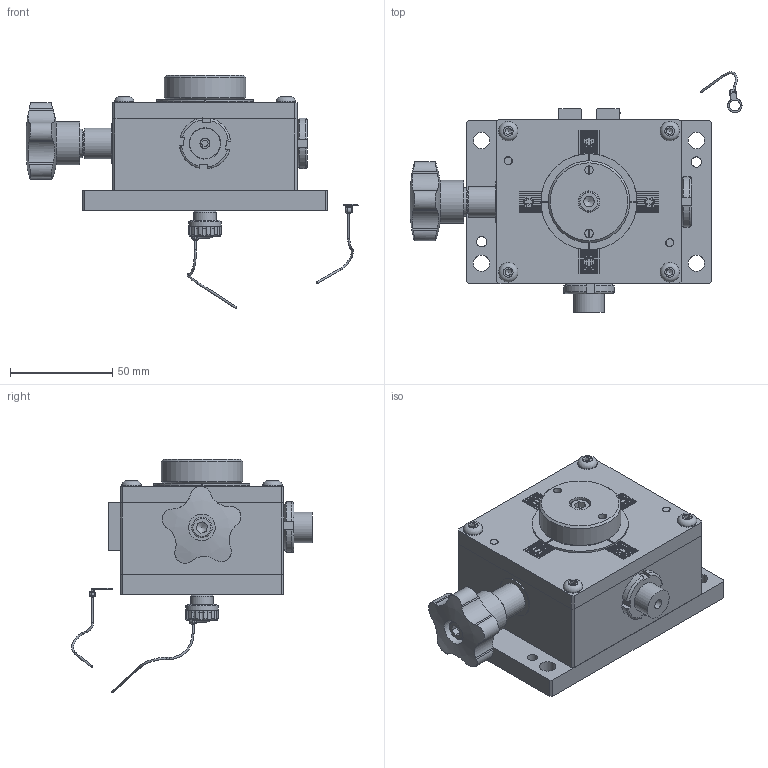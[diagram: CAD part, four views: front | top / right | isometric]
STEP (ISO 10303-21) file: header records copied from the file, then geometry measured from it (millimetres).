
FILE_DESCRIPTION(/* description */ (''),/* implementation_level */ '2;1');
FILE_NAME(/* name */ 'C:\Local Work Area\Progetti\AP\CALIBRI\146.00 Posizionatore\146.00\146.00-SX-L-Y.stp',/* time_stamp */ '2020-02-20T14:55:39+01:00',/* author */ ('CAD5'),/* organization */ (''),/* preprocessor_version */ 'ST-DEVELOPER v17.2',/* originating_system */ 'Autodesk Inventor 2019',/* authorisation */ '');
FILE_SCHEMA (('AUTOMOTIVE_DESIGN { 1 0 10303 214 3 1 1 }'));
Length unit declared in the file: millimetre
Products named in the file (34): 146.00-SX-L-Y; 146.03; 146.01; 146.07; 146.08; 146.02; 146.00_002 Ass manopola-02; 146.00_002 Ass manopola-01; 146.09; UNI 5931 - M 6 x  30; Manopola mecanoplastica 12010250; 146.10; UNI 5933 - M4 x 20; UNI 5923 - M6 x 1 x 8; B12.5 UNI8773; GHIERA M15x1 KM2; UNI 5931 - M5 x 0,8 x 16; ISO 2338 - 5 m6 x 20 - A; Copia di ISO 7380 - M5 x 16; 146.06; UNI 5927 - M5 x 6; 146.00_001 Attrezzatura; 146.04; 146.05; UNI 5931 - M 6 x  20; 146.00 Ass spina; ISO 8735 - 8 x 35 - A; VOLANTINO ZIGRINATO - 130 10 100; catenella; catenella-1; catenella-2; UNI ISO 7380 - M5 x 20; TAPPO_001; ISO 8734 - Ø4 x 16 - A (AP)
Assembly tree (47 placements, depth 4):
  146.00-SX-L-Y
    146.03
    146.01
    146.07
    146.08
    146.02
    146.00_002 Ass manopola-02
      146.09
      146.10
      UNI 5933 - M4 x 20
      UNI 5923 - M6 x 1 x 8
    146.00_002 Ass manopola-01
      146.09
      UNI 5931 - M 6 x  30
      Manopola mecanoplastica 12010250
      146.10
      UNI 5933 - M4 x 20
      UNI 5923 - M6 x 1 x 8
      B12.5 UNI8773  x2
    GHIERA M15x1 KM2  x2
    UNI 5931 - M5 x 0,8 x 16  x4
    ISO 2338 - 5 m6 x 20 - A  x2
    Copia di ISO 7380 - M5 x 16  x4
    146.06
    UNI 5927 - M5 x 6
    146.00_001 Attrezzatura
      146.04
      146.05
      UNI 5931 - M 6 x  20
    146.00 Ass spina
      ISO 8735 - 8 x 35 - A
      VOLANTINO ZIGRINATO - 130 10 100
      catenella
        catenella-1
        catenella-2
      UNI ISO 7380 - M5 x 20
    TAPPO_001
    ISO 8734 - Ø4 x 16 - A (AP)  x2
Bounding box: 162.33 x 117.71 x 114.1 mm (x, y, z)
Volume: 392684.1 mm3; surface area: 134923.5 mm2
Topology: 44 solids, 44 shells, 1078 faces, 2799 edges, 1907 vertices
Faces by surface type: plane 672, cylinder 206, cone 94, bspline 54, torus 51, sphere 1
Full cylindrical faces by diameter (mm): 1 x6, 3.242 x2, 4 x8, 4.1 x2, 4.134 x14, 4.135 x1, 4.917 x4, 5 x24, 5.2 x2, 5.3 x1, 5.333 x1, 6 x5, 6.1 x1, 6.4 x2, 6.5 x4, 7.64 x2, 8 x15, 8.5 x4, 9 x4, 9.5 x5, 10 x2, 10.5 x1, 11 x1, 11.5 x4, 12 x5, 12.9 x1, 13 x1, 13.867 x1, 13.9 x1, 13.917 x3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
Entity records: 30603 total; most frequent: CARTESIAN_POINT 6675, ORIENTED_EDGE 4650, DIRECTION 4556, EDGE_CURVE 2325, VERTEX_POINT 1600, AXIS2_PLACEMENT_3D 1556, LINE 1444, VECTOR 1444
